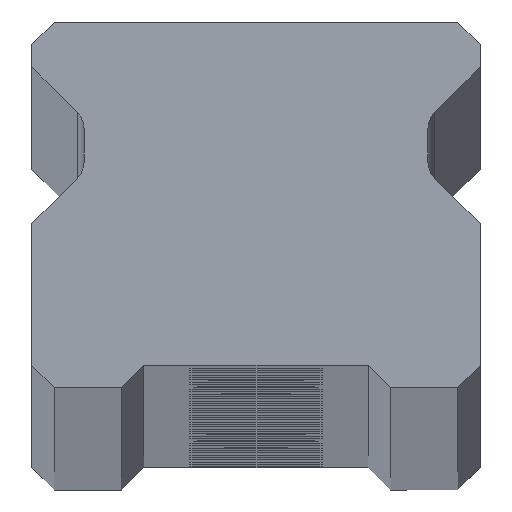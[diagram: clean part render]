
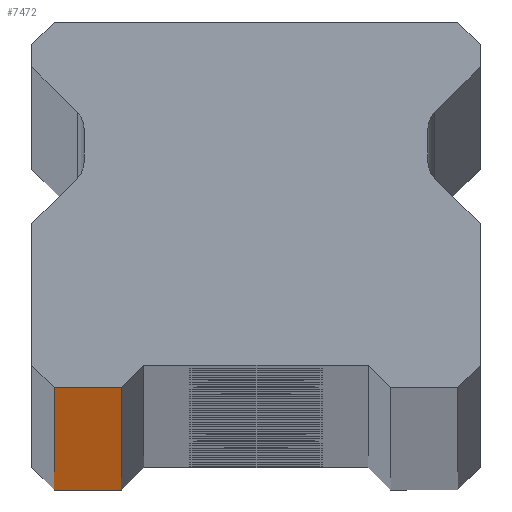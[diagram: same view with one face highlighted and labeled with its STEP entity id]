
A CAD part, top view. The second image highlights one B-rep face of the part: STEP entity #7472.
In plain terms, the highlighted planar face has unit normal (0, -1, 0).
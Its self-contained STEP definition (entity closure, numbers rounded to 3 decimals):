
#115 = LINE ( 'NONE', #4131, #1039 ) ;
#294 = EDGE_CURVE ( 'NONE', #4305, #7460, #4379, .T. ) ;
#751 = LINE ( 'NONE', #6385, #4357 ) ;
#808 = VERTEX_POINT ( 'NONE', #1966 ) ;
#1032 = DIRECTION ( 'NONE',  ( 0., 0., 1. ) ) ;
#1039 = VECTOR ( 'NONE', #4207, 1000. ) ;
#1146 = ORIENTED_EDGE ( 'NONE', *, *, #5582, .T. ) ;
#1148 = EDGE_LOOP ( 'NONE', ( #1146, #1880, #3148, #1916 ) ) ;
#1176 = AXIS2_PLACEMENT_3D ( 'NONE', #3749, #2015, #2042 ) ;
#1188 = FACE_OUTER_BOUND ( 'NONE', #1148, .T. ) ;
#1352 = PLANE ( 'NONE',  #1176 ) ;
#1530 = DIRECTION ( 'NONE',  ( 1., 0., 0. ) ) ;
#1540 = DIRECTION ( 'NONE',  ( 1., 0., 0. ) ) ;
#1880 = ORIENTED_EDGE ( 'NONE', *, *, #3438, .T. ) ;
#1916 = ORIENTED_EDGE ( 'NONE', *, *, #5766, .T. ) ;
#1966 = CARTESIAN_POINT ( 'NONE',  ( -9., 0., -1310. ) ) ;
#2015 = DIRECTION ( 'NONE',  ( 0., 1., 0. ) ) ;
#2042 = DIRECTION ( 'NONE',  ( -1., 0., 0. ) ) ;
#2191 = CARTESIAN_POINT ( 'NONE',  ( 10., 0., -1310. ) ) ;
#2817 = VECTOR ( 'NONE', #1540, 1000. ) ;
#3148 = ORIENTED_EDGE ( 'NONE', *, *, #294, .F. ) ;
#3268 = LINE ( 'NONE', #2191, #6626 ) ;
#3438 = EDGE_CURVE ( 'NONE', #4246, #7460, #751, .T. ) ;
#3749 = CARTESIAN_POINT ( 'NONE',  ( 10., 0., 1310. ) ) ;
#4131 = CARTESIAN_POINT ( 'NONE',  ( -9., 0., 1310. ) ) ;
#4207 = DIRECTION ( 'NONE',  ( 0., 0., -1. ) ) ;
#4246 = VERTEX_POINT ( 'NONE', #6654 ) ;
#4305 = VERTEX_POINT ( 'NONE', #7465 ) ;
#4357 = VECTOR ( 'NONE', #1032, 1000. ) ;
#4379 = LINE ( 'NONE', #5105, #2817 ) ;
#5105 = CARTESIAN_POINT ( 'NONE',  ( 10., 0., 1310. ) ) ;
#5582 = EDGE_CURVE ( 'NONE', #808, #4246, #3268, .T. ) ;
#5766 = EDGE_CURVE ( 'NONE', #4305, #808, #115, .T. ) ;
#6385 = CARTESIAN_POINT ( 'NONE',  ( -6., 0., -1310. ) ) ;
#6626 = VECTOR ( 'NONE', #1530, 1000. ) ;
#6654 = CARTESIAN_POINT ( 'NONE',  ( -6., 0., -1310. ) ) ;
#6774 = CARTESIAN_POINT ( 'NONE',  ( -6., 0., 1310. ) ) ;
#7460 = VERTEX_POINT ( 'NONE', #6774 ) ;
#7465 = CARTESIAN_POINT ( 'NONE',  ( -9., 0., 1310. ) ) ;
#7472 = ADVANCED_FACE ( 'NONE', ( #1188 ), #1352, .F. ) ;
